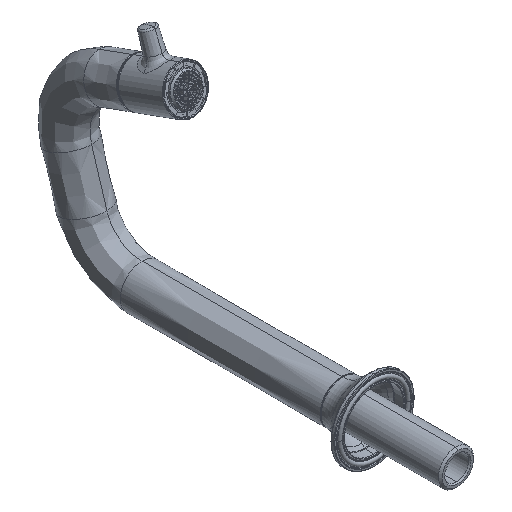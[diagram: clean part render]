
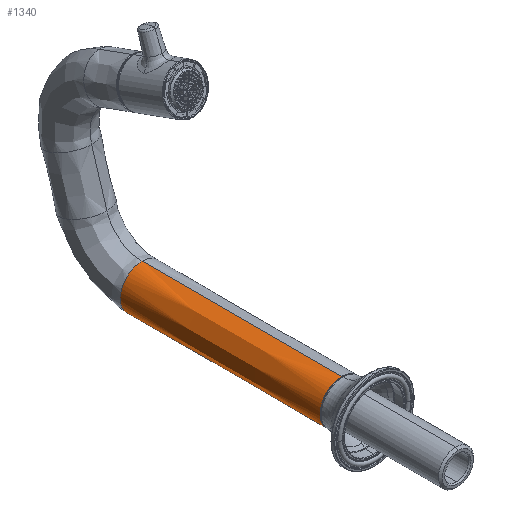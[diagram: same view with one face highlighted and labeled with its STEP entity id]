
A CAD part, isometric view. The second image highlights one B-rep face of the part: STEP entity #1340.
In plain terms, the highlighted free-form (B-spline) face has degree [3, 3] with [10, 4] control points.
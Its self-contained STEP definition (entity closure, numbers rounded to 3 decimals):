
#713=CARTESIAN_POINT('',(0.,0.,13.));
#720=CARTESIAN_POINT('',(0.,0.,-13.));
#722=CARTESIAN_POINT('',(0.,0.,-13.));
#723=CARTESIAN_POINT('',(-2.72,0.,-13.));
#724=CARTESIAN_POINT('',(-8.161,0.,-11.232));
#725=CARTESIAN_POINT('',(-13.204,0.,-4.29));
#726=CARTESIAN_POINT('',(-13.204,0.,4.29));
#727=CARTESIAN_POINT('',(-8.161,0.,11.232));
#728=CARTESIAN_POINT('',(-2.72,0.,13.));
#729=CARTESIAN_POINT('',(0.,0.,13.));
#741=DIRECTION('',(0.,1.,0.));
#742=VECTOR('',#741,119.613);
#743=CARTESIAN_POINT('',(0.,0.,13.));
#744=LINE('',#743,#742);
#745=DIRECTION('',(0.,1.,0.));
#746=VECTOR('',#745,119.613);
#747=CARTESIAN_POINT('',(0.,0.,-13.));
#748=LINE('',#747,#746);
#749=CARTESIAN_POINT('',(0.,119.613,-13.));
#750=CARTESIAN_POINT('',(-2.72,119.613,-13.));
#751=CARTESIAN_POINT('',(-8.161,119.613,-11.232));
#752=CARTESIAN_POINT('',(-13.204,119.613,-4.29));
#753=CARTESIAN_POINT('',(-13.204,119.613,4.29));
#754=CARTESIAN_POINT('',(-8.161,119.613,11.232));
#755=CARTESIAN_POINT('',(-2.72,119.613,13.));
#756=CARTESIAN_POINT('',(0.,119.613,13.));
#771=CARTESIAN_POINT('',(0.,119.613,13.));
#778=CARTESIAN_POINT('',(0.,119.613,-13.));
#1181=VERTEX_POINT('',#713);
#1182=VERTEX_POINT('',#720);
#1185=VERTEX_POINT('',#771);
#1186=VERTEX_POINT('',#778);
#1292=CARTESIAN_POINT('',(0.816,-2.392,
-12.974));
#1293=CARTESIAN_POINT('',(0.816,39.074,
-12.974));
#1294=CARTESIAN_POINT('',(0.816,80.539,
-12.974));
#1295=CARTESIAN_POINT('',(0.816,122.005,
-12.974));
#1296=CARTESIAN_POINT('',(0.544,-2.392,
-12.991));
#1297=CARTESIAN_POINT('',(0.544,39.074,
-12.991));
#1298=CARTESIAN_POINT('',(0.544,80.539,
-12.991));
#1299=CARTESIAN_POINT('',(0.544,122.005,
-12.991));
#1300=CARTESIAN_POINT('',(-2.448,-2.392,
-13.088));
#1301=CARTESIAN_POINT('',(-2.448,39.074,
-13.088));
#1302=CARTESIAN_POINT('',(-2.448,80.539,
-13.088));
#1303=CARTESIAN_POINT('',(-2.448,122.005,
-13.088));
#1304=CARTESIAN_POINT('',(-8.161,-2.392,
-11.232));
#1305=CARTESIAN_POINT('',(-8.161,39.074,
-11.232));
#1306=CARTESIAN_POINT('',(-8.161,80.539,
-11.232));
#1307=CARTESIAN_POINT('',(-8.161,122.005,
-11.232));
#1308=CARTESIAN_POINT('',(-13.204,-2.392,
-4.29));
#1309=CARTESIAN_POINT('',(-13.204,39.074,
-4.29));
#1310=CARTESIAN_POINT('',(-13.204,80.539,
-4.29));
#1311=CARTESIAN_POINT('',(-13.204,122.005,
-4.29));
#1312=CARTESIAN_POINT('',(-13.204,-2.392,
4.29));
#1313=CARTESIAN_POINT('',(-13.204,39.074,4.29));
#1314=CARTESIAN_POINT('',(-13.204,80.539,4.29));
#1315=CARTESIAN_POINT('',(-13.204,122.005,4.29));
#1316=CARTESIAN_POINT('',(-8.161,-2.392,
11.232));
#1317=CARTESIAN_POINT('',(-8.161,39.074,11.232));
#1318=CARTESIAN_POINT('',(-8.161,80.539,11.232));
#1319=CARTESIAN_POINT('',(-8.161,122.005,11.232));
#1320=CARTESIAN_POINT('',(-2.448,-2.392,
13.088));
#1321=CARTESIAN_POINT('',(-2.448,39.074,13.088));
#1322=CARTESIAN_POINT('',(-2.448,80.539,13.088));
#1323=CARTESIAN_POINT('',(-2.448,122.005,13.088));
#1324=CARTESIAN_POINT('',(0.544,-2.392,
12.991));
#1325=CARTESIAN_POINT('',(0.544,39.074,12.991));
#1326=CARTESIAN_POINT('',(0.544,80.539,12.991));
#1327=CARTESIAN_POINT('',(0.544,122.005,12.991));
#1328=CARTESIAN_POINT('',(0.816,-2.392,
12.974));
#1329=CARTESIAN_POINT('',(0.816,39.074,12.974));
#1330=CARTESIAN_POINT('',(0.816,80.539,12.974));
#1331=CARTESIAN_POINT('',(0.816,122.005,12.974));
#1332=B_SPLINE_SURFACE_WITH_KNOTS('',3,3,((#1292,#1293,#1294,#1295),(#1296,
#1297,#1298,#1299),(#1300,#1301,#1302,#1303),(#1304,#1305,#1306,#1307),(#1308,
#1309,#1310,#1311),(#1312,#1313,#1314,#1315),(#1316,#1317,#1318,#1319),(#1320,
#1321,#1322,#1323),(#1324,#1325,#1326,#1327),(#1328,#1329,#1330,#1331)),
.UNSPECIFIED.,.F.,.F.,.F.,(4,1,1,1,1,1,1,4),(4,4),(0.49,0.5,0.6,0.7,
0.8,0.9,1.,1.01),(-0.02,1.02),.UNSPECIFIED.);
#1333=ORIENTED_EDGE('',*,*,#1230,.F.);
#1334=ORIENTED_EDGE('',*,*,#1287,.T.);
#1336=ORIENTED_EDGE('',*,*,#1335,.T.);
#1337=ORIENTED_EDGE('',*,*,#1283,.F.);
#1338=EDGE_LOOP('',(#1333,#1334,#1336,#1337));
#1339=FACE_OUTER_BOUND('',#1338,.F.);
#1340=ADVANCED_FACE('',(#1339),#1332,.T.);
#730=B_SPLINE_CURVE_WITH_KNOTS('',3,(#722,#723,#724,#725,#726,#727,#728,#729),
.UNSPECIFIED.,.F.,.F.,(4,1,1,1,1,4),(0.,0.2,0.4,0.6,0.8,1.),
.UNSPECIFIED.);
#757=B_SPLINE_CURVE_WITH_KNOTS('',3,(#749,#750,#751,#752,#753,#754,#755,#756),
.UNSPECIFIED.,.F.,.F.,(4,1,1,1,1,4),(0.,0.2,0.4,0.6,0.8,1.),
.UNSPECIFIED.);
#1230=EDGE_CURVE('',#1182,#1181,#730,.T.);
#1283=EDGE_CURVE('',#1181,#1185,#744,.T.);
#1287=EDGE_CURVE('',#1182,#1186,#748,.T.);
#1335=EDGE_CURVE('',#1186,#1185,#757,.T.);
